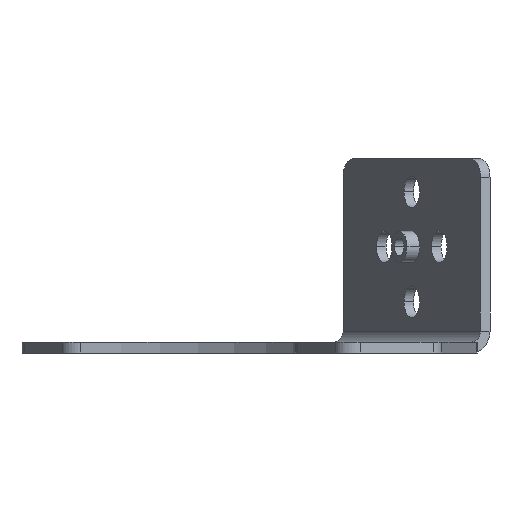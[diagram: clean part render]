
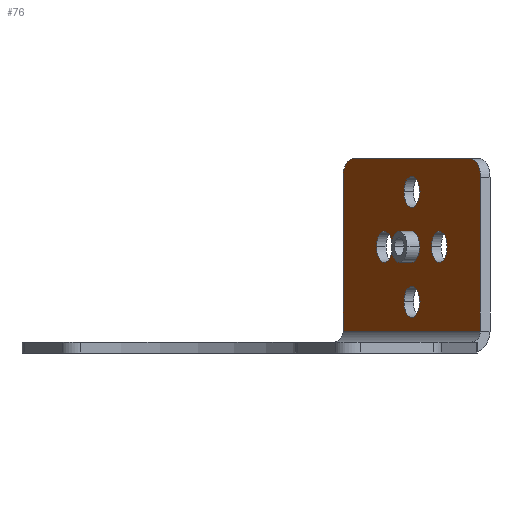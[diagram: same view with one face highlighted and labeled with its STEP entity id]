
A CAD part, front view. The second image highlights one B-rep face of the part: STEP entity #76.
In plain terms, the highlighted planar face has unit normal (-0.866, -0.5, 0).
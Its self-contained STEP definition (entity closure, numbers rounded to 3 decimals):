
#15 = VERTEX_POINT ( 'NONE', #785 ) ;
#16 = VERTEX_POINT ( 'NONE', #767 ) ;
#17 = EDGE_CURVE ( 'NONE', #15, #16, #784, .T. ) ;
#32 = VERTEX_POINT ( 'NONE', #812 ) ;
#70 = VERTEX_POINT ( 'NONE', #715 ) ;
#71 = EDGE_CURVE ( 'NONE', #70, #32, #954, .T. ) ;
#73 = VERTEX_POINT ( 'NONE', #867 ) ;
#74 = VERTEX_POINT ( 'NONE', #866 ) ;
#76 = ADVANCED_FACE ( 'NONE', ( #908, #917, #916, #915, #914, #913 ), #872, .T. ) ;
#82 = VERTEX_POINT ( 'NONE', #947 ) ;
#103 = EDGE_LOOP ( 'NONE', ( #104, #105 ) ) ;
#104 = ORIENTED_EDGE ( 'NONE', *, *, #17, .F. ) ;
#105 = ORIENTED_EDGE ( 'NONE', *, *, #106, .F. ) ;
#106 = EDGE_CURVE ( 'NONE', #16, #15, #973, .T. ) ;
#118 = VERTEX_POINT ( 'NONE', #848 ) ;
#119 = EDGE_CURVE ( 'NONE', #129, #141, #847, .T. ) ;
#121 = ORIENTED_EDGE ( 'NONE', *, *, #122, .F. ) ;
#122 = EDGE_CURVE ( 'NONE', #74, #146, #841, .T. ) ;
#123 = EDGE_LOOP ( 'NONE', ( #194, #196 ) ) ;
#126 = EDGE_CURVE ( 'NONE', #142, #143, #865, .T. ) ;
#128 = EDGE_CURVE ( 'NONE', #118, #73, #860, .T. ) ;
#129 = VERTEX_POINT ( 'NONE', #855 ) ;
#136 = EDGE_LOOP ( 'NONE', ( #154, #155 ) ) ;
#141 = VERTEX_POINT ( 'NONE', #892 ) ;
#142 = VERTEX_POINT ( 'NONE', #888 ) ;
#143 = VERTEX_POINT ( 'NONE', #887 ) ;
#144 = ORIENTED_EDGE ( 'NONE', *, *, #145, .T. ) ;
#145 = EDGE_CURVE ( 'NONE', #142, #146, #886, .T. ) ;
#146 = VERTEX_POINT ( 'NONE', #881 ) ;
#147 = EDGE_CURVE ( 'NONE', #159, #82, #906, .T. ) ;
#154 = ORIENTED_EDGE ( 'NONE', *, *, #147, .F. ) ;
#155 = ORIENTED_EDGE ( 'NONE', *, *, #156, .F. ) ;
#156 = EDGE_CURVE ( 'NONE', #82, #159, #1043, .T. ) ;
#159 = VERTEX_POINT ( 'NONE', #988 ) ;
#160 = ORIENTED_EDGE ( 'NONE', *, *, #161, .T. ) ;
#161 = EDGE_CURVE ( 'NONE', #74, #162, #987, .T. ) ;
#162 = VERTEX_POINT ( 'NONE', #1000 ) ;
#163 = ORIENTED_EDGE ( 'NONE', *, *, #232, .F. ) ;
#173 = EDGE_LOOP ( 'NONE', ( #174, #144, #121, #160, #163, #206 ) ) ;
#174 = ORIENTED_EDGE ( 'NONE', *, *, #126, .F. ) ;
#176 = EDGE_CURVE ( 'NONE', #143, #233, #992, .T. ) ;
#177 = EDGE_LOOP ( 'NONE', ( #178, #179 ) ) ;
#178 = ORIENTED_EDGE ( 'NONE', *, *, #128, .F. ) ;
#179 = ORIENTED_EDGE ( 'NONE', *, *, #180, .F. ) ;
#180 = EDGE_CURVE ( 'NONE', #73, #118, #1015, .T. ) ;
#181 = EDGE_LOOP ( 'NONE', ( #182, #183 ) ) ;
#182 = ORIENTED_EDGE ( 'NONE', *, *, #119, .F. ) ;
#183 = ORIENTED_EDGE ( 'NONE', *, *, #184, .F. ) ;
#184 = EDGE_CURVE ( 'NONE', #141, #129, #1010, .T. ) ;
#194 = ORIENTED_EDGE ( 'NONE', *, *, #195, .F. ) ;
#195 = EDGE_CURVE ( 'NONE', #32, #70, #1053, .T. ) ;
#196 = ORIENTED_EDGE ( 'NONE', *, *, #71, .F. ) ;
#206 = ORIENTED_EDGE ( 'NONE', *, *, #176, .F. ) ;
#232 = EDGE_CURVE ( 'NONE', #233, #162, #1086, .T. ) ;
#233 = VERTEX_POINT ( 'NONE', #1082 ) ;
#715 = CARTESIAN_POINT ( 'NONE',  ( 107.392, 32.497, 13.1 ) ) ;
#767 = CARTESIAN_POINT ( 'NONE',  ( 107.392, 32.497, -1.9 ) ) ;
#781 = DIRECTION ( 'NONE',  ( -0.866, -0.5, 0. ) ) ;
#782 = CARTESIAN_POINT ( 'NONE',  ( 105.267, 36.178, -1.9 ) ) ;
#783 = AXIS2_PLACEMENT_3D ( 'NONE', #782, #781, #789 ) ;
#784 = CIRCLE ( 'NONE', #783, 4.25 ) ;
#785 = CARTESIAN_POINT ( 'NONE',  ( 103.142, 39.858, -1.9 ) ) ;
#789 = DIRECTION ( 'NONE',  ( 0.5, -0.866, 0. ) ) ;
#812 = CARTESIAN_POINT ( 'NONE',  ( 103.142, 39.858, 13.1 ) ) ;
#838 = DIRECTION ( 'NONE',  ( 0.5, -0.866, 0. ) ) ;
#839 = VECTOR ( 'NONE', #838, 1000. ) ;
#840 = CARTESIAN_POINT ( 'NONE',  ( 124.017, 3.702, 37.1 ) ) ;
#841 = LINE ( 'NONE', #840, #839 ) ;
#843 = DIRECTION ( 'NONE',  ( 0.5, -0.866, 0. ) ) ;
#844 = DIRECTION ( 'NONE',  ( -0.866, -0.5, 0. ) ) ;
#845 = CARTESIAN_POINT ( 'NONE',  ( 97.767, 49.168, 13.1 ) ) ;
#846 = AXIS2_PLACEMENT_3D ( 'NONE', #845, #844, #843 ) ;
#847 = CIRCLE ( 'NONE', #846, 4.25 ) ;
#848 = CARTESIAN_POINT ( 'NONE',  ( 103.142, 39.858, 28.1 ) ) ;
#855 = CARTESIAN_POINT ( 'NONE',  ( 95.642, 52.849, 13.1 ) ) ;
#856 = DIRECTION ( 'NONE',  ( 0.5, -0.866, 0. ) ) ;
#857 = DIRECTION ( 'NONE',  ( -0.866, -0.5, 0. ) ) ;
#858 = CARTESIAN_POINT ( 'NONE',  ( 105.267, 36.178, 28.1 ) ) ;
#859 = AXIS2_PLACEMENT_3D ( 'NONE', #858, #857, #856 ) ;
#860 = CIRCLE ( 'NONE', #859, 4.25 ) ;
#862 = DIRECTION ( 'NONE',  ( 0., 0., -1. ) ) ;
#863 = VECTOR ( 'NONE', #862, 1000. ) ;
#864 = CARTESIAN_POINT ( 'NONE',  ( 124.017, 3.702, -12.9 ) ) ;
#865 = LINE ( 'NONE', #864, #863 ) ;
#866 = CARTESIAN_POINT ( 'NONE',  ( 89.017, 64.324, 37.1 ) ) ;
#867 = CARTESIAN_POINT ( 'NONE',  ( 107.392, 32.497, 28.1 ) ) ;
#868 = DIRECTION ( 'NONE',  ( 0.5, -0.866, 0. ) ) ;
#869 = DIRECTION ( 'NONE',  ( -0.866, -0.5, 0. ) ) ;
#870 = CARTESIAN_POINT ( 'NONE',  ( 86.517, 68.654, -12.9 ) ) ;
#871 = AXIS2_PLACEMENT_3D ( 'NONE', #870, #869, #868 ) ;
#872 = PLANE ( 'NONE',  #871 ) ;
#880 = CARTESIAN_POINT ( 'NONE',  ( 112.767, 23.187, 13.1 ) ) ;
#881 = CARTESIAN_POINT ( 'NONE',  ( 121.517, 8.032, 37.1 ) ) ;
#882 = DIRECTION ( 'NONE',  ( 0.5, -0.866, 0. ) ) ;
#883 = DIRECTION ( 'NONE',  ( -0.866, -0.5, 0. ) ) ;
#884 = CARTESIAN_POINT ( 'NONE',  ( 121.517, 8.032, 32.1 ) ) ;
#885 = AXIS2_PLACEMENT_3D ( 'NONE', #884, #883, #882 ) ;
#886 = CIRCLE ( 'NONE', #885, 5. ) ;
#887 = CARTESIAN_POINT ( 'NONE',  ( 124.017, 3.702, -9.9 ) ) ;
#888 = CARTESIAN_POINT ( 'NONE',  ( 124.017, 3.702, 32.1 ) ) ;
#892 = CARTESIAN_POINT ( 'NONE',  ( 99.892, 45.488, 13.1 ) ) ;
#900 = DIRECTION ( 'NONE',  ( -0.866, -0.5, 0. ) ) ;
#903 = DIRECTION ( 'NONE',  ( 0.5, -0.866, 0. ) ) ;
#904 = DIRECTION ( 'NONE',  ( -0.866, -0.5, 0. ) ) ;
#905 = AXIS2_PLACEMENT_3D ( 'NONE', #880, #904, #903 ) ;
#906 = CIRCLE ( 'NONE', #905, 4.25 ) ;
#907 = DIRECTION ( 'NONE',  ( 0.5, -0.866, 0. ) ) ;
#908 = FACE_OUTER_BOUND ( 'NONE', #173, .T. ) ;
#913 = FACE_BOUND ( 'NONE', #123, .T. ) ;
#914 = FACE_BOUND ( 'NONE', #103, .T. ) ;
#915 = FACE_BOUND ( 'NONE', #181, .T. ) ;
#916 = FACE_BOUND ( 'NONE', #136, .T. ) ;
#917 = FACE_BOUND ( 'NONE', #177, .T. ) ;
#918 = CARTESIAN_POINT ( 'NONE',  ( 105.267, 36.178, 13.1 ) ) ;
#919 = AXIS2_PLACEMENT_3D ( 'NONE', #918, #900, #907 ) ;
#947 = CARTESIAN_POINT ( 'NONE',  ( 114.892, 19.507, 13.1 ) ) ;
#954 = CIRCLE ( 'NONE', #919, 4.25 ) ;
#970 = DIRECTION ( 'NONE',  ( 0.5, -0.866, 0. ) ) ;
#971 = DIRECTION ( 'NONE',  ( -0.866, -0.5, 0. ) ) ;
#972 = AXIS2_PLACEMENT_3D ( 'NONE', #979, #971, #970 ) ;
#973 = CIRCLE ( 'NONE', #972, 4.25 ) ;
#979 = CARTESIAN_POINT ( 'NONE',  ( 105.267, 36.178, -1.9 ) ) ;
#986 = AXIS2_PLACEMENT_3D ( 'NONE', #1003, #1002, #1001 ) ;
#987 = CIRCLE ( 'NONE', #986, 5. ) ;
#988 = CARTESIAN_POINT ( 'NONE',  ( 110.642, 26.868, 13.1 ) ) ;
#989 = DIRECTION ( 'NONE',  ( -0.5, 0.866, 0. ) ) ;
#990 = VECTOR ( 'NONE', #989, 1000. ) ;
#991 = CARTESIAN_POINT ( 'NONE',  ( 124.017, 3.702, -9.9 ) ) ;
#992 = LINE ( 'NONE', #991, #990 ) ;
#1000 = CARTESIAN_POINT ( 'NONE',  ( 86.517, 68.654, 32.1 ) ) ;
#1001 = DIRECTION ( 'NONE',  ( 0.5, -0.866, 0. ) ) ;
#1002 = DIRECTION ( 'NONE',  ( -0.866, -0.5, 0. ) ) ;
#1003 = CARTESIAN_POINT ( 'NONE',  ( 89.017, 64.324, 32.1 ) ) ;
#1006 = DIRECTION ( 'NONE',  ( 0.5, -0.866, 0. ) ) ;
#1007 = DIRECTION ( 'NONE',  ( -0.866, -0.5, 0. ) ) ;
#1008 = CARTESIAN_POINT ( 'NONE',  ( 97.767, 49.168, 13.1 ) ) ;
#1009 = AXIS2_PLACEMENT_3D ( 'NONE', #1008, #1007, #1006 ) ;
#1010 = CIRCLE ( 'NONE', #1009, 4.25 ) ;
#1011 = DIRECTION ( 'NONE',  ( 0.5, -0.866, 0. ) ) ;
#1012 = DIRECTION ( 'NONE',  ( -0.866, -0.5, 0. ) ) ;
#1013 = CARTESIAN_POINT ( 'NONE',  ( 105.267, 36.178, 28.1 ) ) ;
#1014 = AXIS2_PLACEMENT_3D ( 'NONE', #1013, #1012, #1011 ) ;
#1015 = CIRCLE ( 'NONE', #1014, 4.25 ) ;
#1043 = CIRCLE ( 'NONE', #1072, 4.25 ) ;
#1050 = DIRECTION ( 'NONE',  ( 0.5, -0.866, 0. ) ) ;
#1051 = DIRECTION ( 'NONE',  ( -0.866, -0.5, 0. ) ) ;
#1052 = AXIS2_PLACEMENT_3D ( 'NONE', #1058, #1051, #1050 ) ;
#1053 = CIRCLE ( 'NONE', #1052, 4.25 ) ;
#1058 = CARTESIAN_POINT ( 'NONE',  ( 105.267, 36.178, 13.1 ) ) ;
#1069 = DIRECTION ( 'NONE',  ( 0.5, -0.866, 0. ) ) ;
#1070 = DIRECTION ( 'NONE',  ( -0.866, -0.5, 0. ) ) ;
#1071 = CARTESIAN_POINT ( 'NONE',  ( 112.767, 23.187, 13.1 ) ) ;
#1072 = AXIS2_PLACEMENT_3D ( 'NONE', #1071, #1070, #1069 ) ;
#1082 = CARTESIAN_POINT ( 'NONE',  ( 86.517, 68.654, -9.9 ) ) ;
#1083 = DIRECTION ( 'NONE',  ( 0., 0., 1. ) ) ;
#1084 = VECTOR ( 'NONE', #1083, 1000. ) ;
#1085 = CARTESIAN_POINT ( 'NONE',  ( 86.517, 68.654, 37.1 ) ) ;
#1086 = LINE ( 'NONE', #1085, #1084 ) ;
